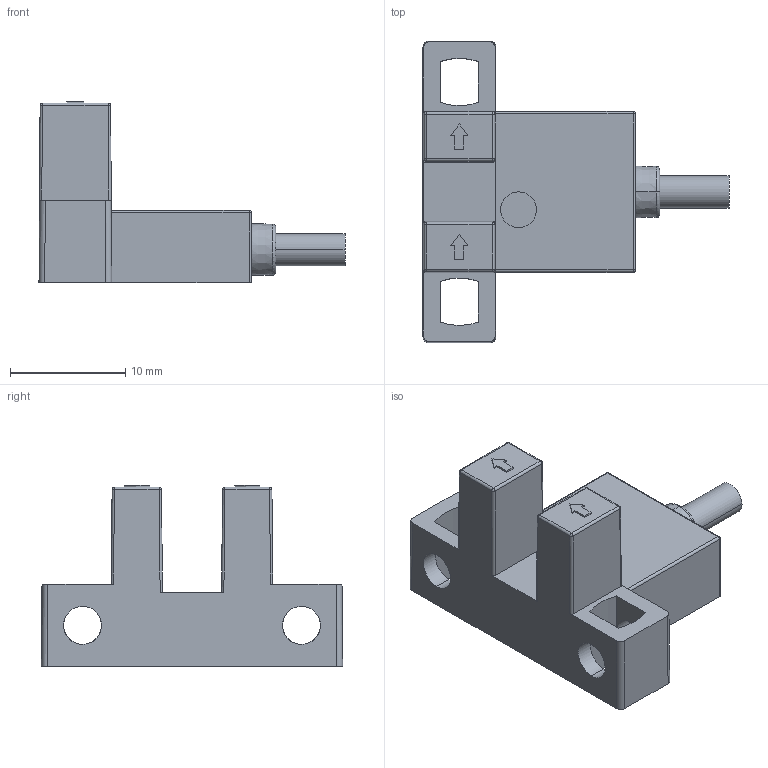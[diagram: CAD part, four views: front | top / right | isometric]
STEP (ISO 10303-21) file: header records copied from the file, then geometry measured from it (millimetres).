
FILE_DESCRIPTION((''),'2;1');
FILE_NAME('ASM671_ASM_ASM','2018-07-16T13:45:15',('Administrator'),(''),'CREO PARAMETRIC BY PTC INC, 2016390','CREO PARAMETRIC BY PTC INC, 2016390','');
FILE_SCHEMA(('CONFIG_CONTROL_DESIGN'));
Products named in the file (4): FFU-67100_36; B1_24_7; ASM67100_ASM_23_ASM; ASM671_ASM_ASM
Assembly tree (3 placements, depth 3):
  ASM671_ASM_ASM
    ASM67100_ASM_23_ASM
      FFU-67100_36
      B1_24_7
Bounding box: 26.5 x 26.1 x 15.7 mm (x, y, z)
Volume: 1449.7 mm3; surface area: 2997 mm2
Topology: 3 solids, 3 shells, 165 faces, 437 edges, 275 vertices
Faces by surface type: plane 100, cylinder 47, sphere 10, cone 6, torus 2
Entity records: 5266 total; most frequent: CARTESIAN_POINT 1081, ORIENTED_EDGE 854, DIRECTION 831, EDGE_CURVE 427, VECTOR 311, LINE 311, VERTEX_POINT 275, AXIS2_PLACEMENT_3D 260
